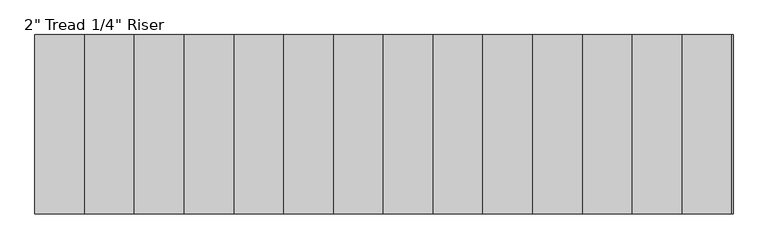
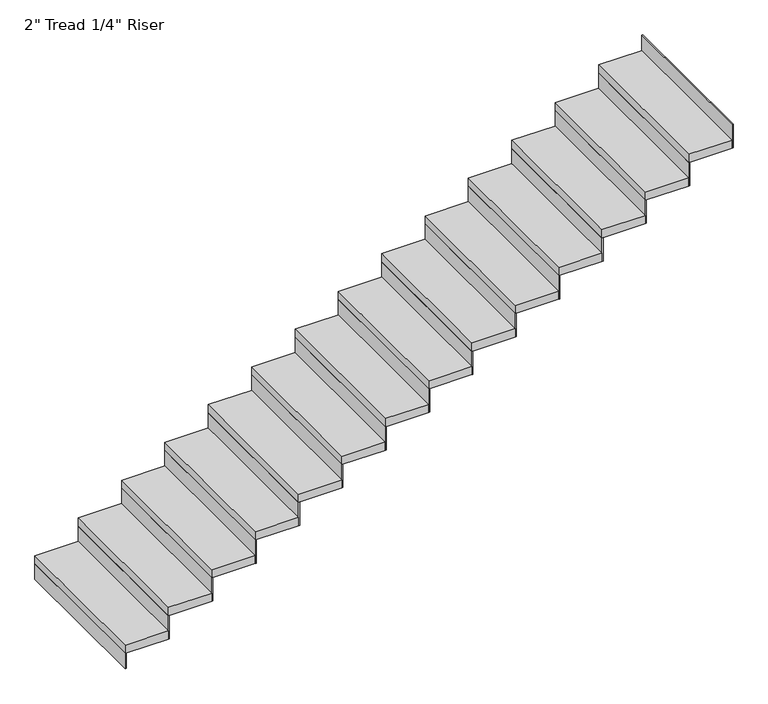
"""IFC4 building model written with IfcOpenShell, lengths in millimetres: stair flight geometry."""

from ifc_helpers import new_model, si_unit, frame, origin, origin_with_axes, place, context, project, spatial, polyline, outline, extrude, source, transform, mapped, element, save


def stair_flight_98662bac(model_context):
    return source(origin(), model_context, "Body", "SweptSolid", [
        extrude(outline(polyline([(84304.1548368, 15846.0395941), (84297.8048368, 15846.0395941), (84297.8048368, 16760.4395941), (84304.1548368, 16760.4395941), (84304.1548368, 15846.0395941)])), origin_with_axes(), (0.0, 0.0, 1.0), 94.3428571),
        extrude(outline(polyline([(84551.8048368, 16760.4395941), (84551.8048368, 15846.0395941), (84297.8048368, 15846.0395941), (84297.8048368, 16760.4395941), (84551.8048368, 16760.4395941)])), frame((0.0, 0.0, 94.3428571), z_axis=(0.0, 0.0, 1.0), x_axis=(1.0, 0.0, 0.0)), (0.0, 0.0, 1.0), 50.8),
        extrude(outline(polyline([(84558.1548368, 15846.0395941), (84551.8048368, 15846.0395941), (84551.8048368, 16760.4395941), (84558.1548368, 16760.4395941), (84558.1548368, 15846.0395941)])), frame((0.0, 0.0, 94.3428571), z_axis=(0.0, 0.0, 1.0), x_axis=(1.0, 0.0, 0.0)), (0.0, 0.0, 1.0), 145.1428571),
        extrude(outline(polyline([(84805.8048368, 16760.4395941), (84805.8048368, 15846.0395941), (84551.8048368, 15846.0395941), (84551.8048368, 16760.4395941), (84805.8048368, 16760.4395941)])), frame((0.0, 0.0, 239.4857143), z_axis=(0.0, 0.0, 1.0), x_axis=(1.0, 0.0, 0.0)), (0.0, 0.0, 1.0), 50.8),
        extrude(outline(polyline([(84812.1548368, 15846.0395941), (84805.8048368, 15846.0395941), (84805.8048368, 16760.4395941), (84812.1548368, 16760.4395941), (84812.1548368, 15846.0395941)])), frame((0.0, 0.0, 239.4857143), z_axis=(0.0, 0.0, 1.0), x_axis=(1.0, 0.0, 0.0)), (0.0, 0.0, 1.0), 145.1428571),
        extrude(outline(polyline([(85059.8048368, 16760.4395941), (85059.8048368, 15846.0395941), (84805.8048368, 15846.0395941), (84805.8048368, 16760.4395941), (85059.8048368, 16760.4395941)])), frame((0.0, 0.0, 384.6285714), z_axis=(0.0, 0.0, 1.0), x_axis=(1.0, 0.0, 0.0)), (0.0, 0.0, 1.0), 50.8),
        extrude(outline(polyline([(85066.1548368, 15846.0395941), (85059.8048368, 15846.0395941), (85059.8048368, 16760.4395941), (85066.1548368, 16760.4395941), (85066.1548368, 15846.0395941)])), frame((0.0, 0.0, 384.6285714), z_axis=(0.0, 0.0, 1.0), x_axis=(1.0, 0.0, 0.0)), (0.0, 0.0, 1.0), 145.1428571),
        extrude(outline(polyline([(85313.8048368, 16760.4395941), (85313.8048368, 15846.0395941), (85059.8048368, 15846.0395941), (85059.8048368, 16760.4395941), (85313.8048368, 16760.4395941)])), frame((0.0, 0.0, 529.7714286), z_axis=(0.0, 0.0, 1.0), x_axis=(1.0, 0.0, 0.0)), (0.0, 0.0, 1.0), 50.8),
        extrude(outline(polyline([(85320.1548368, 15846.0395941), (85313.8048368, 15846.0395941), (85313.8048368, 16760.4395941), (85320.1548368, 16760.4395941), (85320.1548368, 15846.0395941)])), frame((0.0, 0.0, 529.7714286), z_axis=(0.0, 0.0, 1.0), x_axis=(1.0, 0.0, 0.0)), (0.0, 0.0, 1.0), 145.1428571),
        extrude(outline(polyline([(85567.8048368, 16760.4395941), (85567.8048368, 15846.0395941), (85313.8048368, 15846.0395941), (85313.8048368, 16760.4395941), (85567.8048368, 16760.4395941)])), frame((0.0, 0.0, 674.9142857), z_axis=(0.0, 0.0, 1.0), x_axis=(1.0, 0.0, 0.0)), (0.0, 0.0, 1.0), 50.8),
        extrude(outline(polyline([(85574.1548368, 15846.0395941), (85567.8048368, 15846.0395941), (85567.8048368, 16760.4395941), (85574.1548368, 16760.4395941), (85574.1548368, 15846.0395941)])), frame((0.0, 0.0, 674.9142857), z_axis=(0.0, 0.0, 1.0), x_axis=(1.0, 0.0, 0.0)), (0.0, 0.0, 1.0), 145.1428571),
        extrude(outline(polyline([(85821.8048368, 16760.4395941), (85821.8048368, 15846.0395941), (85567.8048368, 15846.0395941), (85567.8048368, 16760.4395941), (85821.8048368, 16760.4395941)])), frame((0.0, 0.0, 820.0571429), z_axis=(0.0, 0.0, 1.0), x_axis=(1.0, 0.0, 0.0)), (0.0, 0.0, 1.0), 50.8),
        extrude(outline(polyline([(85828.1548368, 15846.0395941), (85821.8048368, 15846.0395941), (85821.8048368, 16760.4395941), (85828.1548368, 16760.4395941), (85828.1548368, 15846.0395941)])), frame((0.0, 0.0, 820.0571429), z_axis=(0.0, 0.0, 1.0), x_axis=(1.0, 0.0, 0.0)), (0.0, 0.0, 1.0), 145.1428571),
        extrude(outline(polyline([(86075.8048368, 16760.4395941), (86075.8048368, 15846.0395941), (85821.8048368, 15846.0395941), (85821.8048368, 16760.4395941), (86075.8048368, 16760.4395941)])), frame((0.0, 0.0, 965.2), z_axis=(0.0, 0.0, 1.0), x_axis=(1.0, 0.0, 0.0)), (0.0, 0.0, 1.0), 50.8),
        extrude(outline(polyline([(86082.1548368, 15846.0395941), (86075.8048368, 15846.0395941), (86075.8048368, 16760.4395941), (86082.1548368, 16760.4395941), (86082.1548368, 15846.0395941)])), frame((0.0, 0.0, 965.2), z_axis=(0.0, 0.0, 1.0), x_axis=(1.0, 0.0, 0.0)), (0.0, 0.0, 1.0), 145.1428571),
        extrude(outline(polyline([(86329.8048368, 16760.4395941), (86329.8048368, 15846.0395941), (86075.8048368, 15846.0395941), (86075.8048368, 16760.4395941), (86329.8048368, 16760.4395941)])), frame((0.0, 0.0, 1110.3428571), z_axis=(0.0, 0.0, 1.0), x_axis=(1.0, 0.0, 0.0)), (0.0, 0.0, 1.0), 50.8),
        extrude(outline(polyline([(86336.1548368, 15846.0395941), (86329.8048368, 15846.0395941), (86329.8048368, 16760.4395941), (86336.1548368, 16760.4395941), (86336.1548368, 15846.0395941)])), frame((0.0, 0.0, 1110.3428571), z_axis=(0.0, 0.0, 1.0), x_axis=(1.0, 0.0, 0.0)), (0.0, 0.0, 1.0), 145.1428571),
        extrude(outline(polyline([(86583.8048368, 16760.4395941), (86583.8048368, 15846.0395941), (86329.8048368, 15846.0395941), (86329.8048368, 16760.4395941), (86583.8048368, 16760.4395941)])), frame((0.0, 0.0, 1255.4857143), z_axis=(0.0, 0.0, 1.0), x_axis=(1.0, 0.0, 0.0)), (0.0, 0.0, 1.0), 50.8),
        extrude(outline(polyline([(86590.1548368, 15846.0395941), (86583.8048368, 15846.0395941), (86583.8048368, 16760.4395941), (86590.1548368, 16760.4395941), (86590.1548368, 15846.0395941)])), frame((0.0, 0.0, 1255.4857143), z_axis=(0.0, 0.0, 1.0), x_axis=(1.0, 0.0, 0.0)), (0.0, 0.0, 1.0), 145.1428571),
        extrude(outline(polyline([(86837.8048368, 16760.4395941), (86837.8048368, 15846.0395941), (86583.8048368, 15846.0395941), (86583.8048368, 16760.4395941), (86837.8048368, 16760.4395941)])), frame((0.0, 0.0, 1400.6285714), z_axis=(0.0, 0.0, 1.0), x_axis=(1.0, 0.0, 0.0)), (0.0, 0.0, 1.0), 50.8),
        extrude(outline(polyline([(86844.1548368, 15846.0395941), (86837.8048368, 15846.0395941), (86837.8048368, 16760.4395941), (86844.1548368, 16760.4395941), (86844.1548368, 15846.0395941)])), frame((0.0, 0.0, 1400.6285714), z_axis=(0.0, 0.0, 1.0), x_axis=(1.0, 0.0, 0.0)), (0.0, 0.0, 1.0), 145.1428571),
        extrude(outline(polyline([(87091.8048368, 16760.4395941), (87091.8048368, 15846.0395941), (86837.8048368, 15846.0395941), (86837.8048368, 16760.4395941), (87091.8048368, 16760.4395941)])), frame((0.0, 0.0, 1545.7714286), z_axis=(0.0, 0.0, 1.0), x_axis=(1.0, 0.0, 0.0)), (0.0, 0.0, 1.0), 50.8),
        extrude(outline(polyline([(87098.1548368, 15846.0395941), (87091.8048368, 15846.0395941), (87091.8048368, 16760.4395941), (87098.1548368, 16760.4395941), (87098.1548368, 15846.0395941)])), frame((0.0, 0.0, 1545.7714286), z_axis=(0.0, 0.0, 1.0), x_axis=(1.0, 0.0, 0.0)), (0.0, 0.0, 1.0), 145.1428571),
        extrude(outline(polyline([(87345.8048368, 16760.4395941), (87345.8048368, 15846.0395941), (87091.8048368, 15846.0395941), (87091.8048368, 16760.4395941), (87345.8048368, 16760.4395941)])), frame((0.0, 0.0, 1690.9142857), z_axis=(0.0, 0.0, 1.0), x_axis=(1.0, 0.0, 0.0)), (0.0, 0.0, 1.0), 50.8),
        extrude(outline(polyline([(87352.1548368, 15846.0395941), (87345.8048368, 15846.0395941), (87345.8048368, 16760.4395941), (87352.1548368, 16760.4395941), (87352.1548368, 15846.0395941)])), frame((0.0, 0.0, 1690.9142857), z_axis=(0.0, 0.0, 1.0), x_axis=(1.0, 0.0, 0.0)), (0.0, 0.0, 1.0), 145.1428571),
        extrude(outline(polyline([(87599.8048368, 16760.4395941), (87599.8048368, 15846.0395941), (87345.8048368, 15846.0395941), (87345.8048368, 16760.4395941), (87599.8048368, 16760.4395941)])), frame((0.0, 0.0, 1836.0571429), z_axis=(0.0, 0.0, 1.0), x_axis=(1.0, 0.0, 0.0)), (0.0, 0.0, 1.0), 50.8),
        extrude(outline(polyline([(87606.1548368, 15846.0395941), (87599.8048368, 15846.0395941), (87599.8048368, 16760.4395941), (87606.1548368, 16760.4395941), (87606.1548368, 15846.0395941)])), frame((0.0, 0.0, 1836.0571429), z_axis=(0.0, 0.0, 1.0), x_axis=(1.0, 0.0, 0.0)), (0.0, 0.0, 1.0), 145.1428571),
        extrude(outline(polyline([(87860.1548368, 15846.0395941), (87853.8048368, 15846.0395941), (87853.8048368, 16760.4395941), (87860.1548368, 16760.4395941), (87860.1548368, 15846.0395941)])), frame((0.0, 0.0, 1981.2), z_axis=(0.0, 0.0, 1.0), x_axis=(1.0, 0.0, 0.0)), (0.0, 0.0, 1.0), 145.1428571),
        extrude(outline(polyline([(87853.8048368, 16760.4395941), (87853.8048368, 15846.0395941), (87599.8048368, 15846.0395941), (87599.8048368, 16760.4395941), (87853.8048368, 16760.4395941)])), frame((0.0, 0.0, 1981.2), z_axis=(0.0, 0.0, 1.0), x_axis=(1.0, 0.0, 0.0)), (0.0, 0.0, 1.0), 50.8),
    ])


if __name__ == "__main__":
    model = new_model("IFC4")
    model_context = context("Model", 3, world=origin())
    ifc_project = project(units=[si_unit("LENGTHUNIT", "METRE", prefix="MILLI")], contexts=[model_context])
    site = spatial("IfcSite", under=ifc_project)
    building = spatial("IfcBuilding", under=site)
    placement = place(None, origin())
    stair_flight_shape = stair_flight_98662bac(model_context)
    element("IfcStairFlight", 1, ObjectType="2\" Tread 1/4\" Riser", at=placement, inside=building, context=model_context, shape_type="MappedRepresentation", body=[
        mapped(stair_flight_shape, transform((0.0, 0.0, 0.0), x_axis=(1.0, 0.0, 0.0), y_axis=(0.0, 1.0, 0.0), z_axis=(0.0, 0.0, 1.0))),
    ])
    save(model, "model.ifc")
